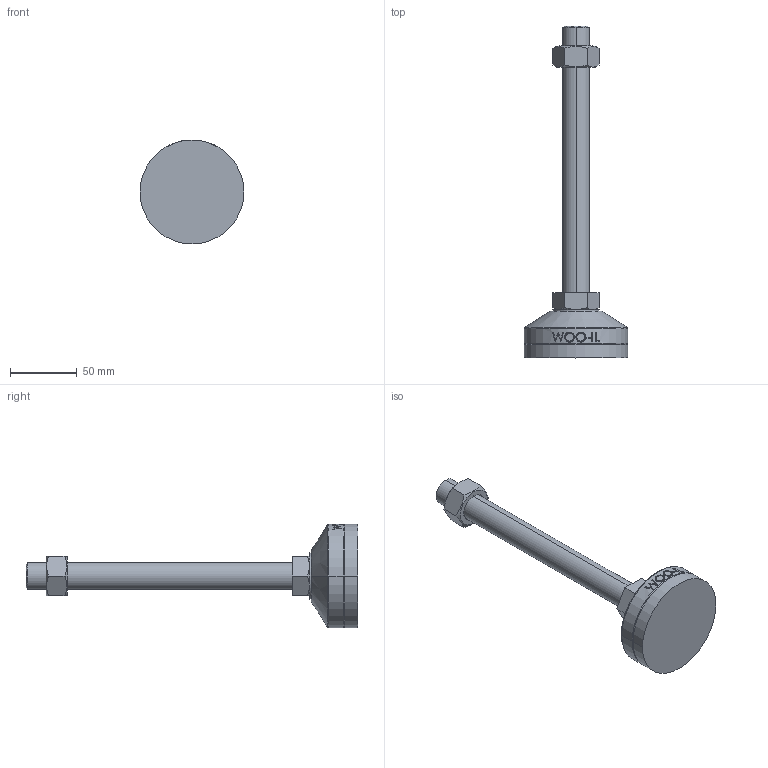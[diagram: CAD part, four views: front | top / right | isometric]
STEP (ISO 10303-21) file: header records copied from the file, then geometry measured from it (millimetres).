
FILE_DESCRIPTION (( 'STEP AP214' ), '1' );
FILE_NAME ('MFR78-M20-200.step', '2021-01-13T05:39:38', ( '' ), ( '' ), 'SwSTEP 2.0', 'SolidWorks 2019', '' );
FILE_SCHEMA (( 'AUTOMOTIVE_DESIGN' ));
Length unit declared in the file: millimetre
Products named in the file (2): MFR78-M20-200
Bounding box: 78 x 249 x 78 mm (x, y, z)
Volume: 223393.3 mm3; surface area: 35039.5 mm2
Topology: 3 solids, 3 shells, 102 faces, 239 edges, 154 vertices
Faces by surface type: plane 48, cylinder 18, bspline 16, cone 14, torus 6
Entity records: 4460 total; most frequent: CARTESIAN_POINT 2185, ORIENTED_EDGE 478, DIRECTION 415, EDGE_CURVE 239, AXIS2_PLACEMENT_3D 158, VERTEX_POINT 154, EDGE_LOOP 115, ADVANCED_FACE 102
